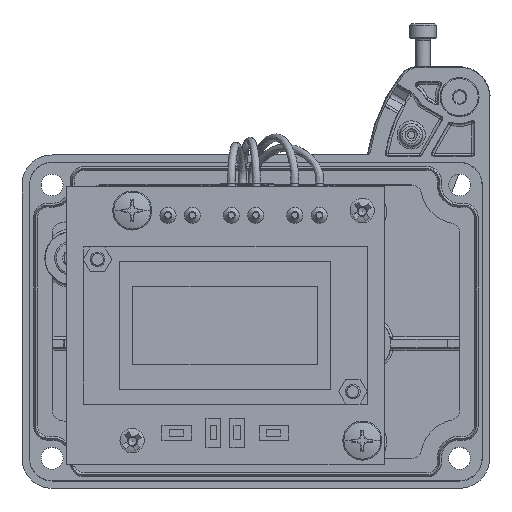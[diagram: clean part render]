
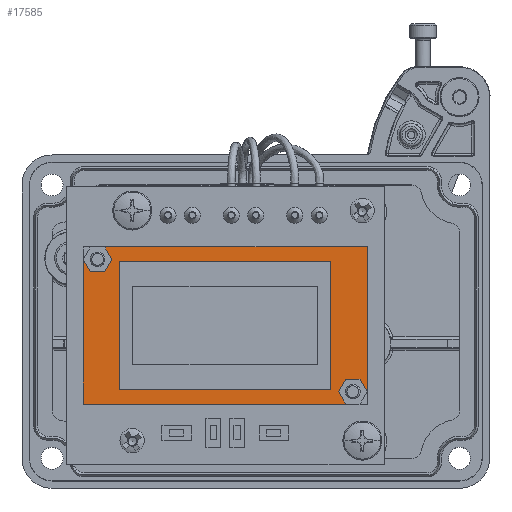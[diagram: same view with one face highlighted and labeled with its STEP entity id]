
A CAD part, top view. The second image highlights one B-rep face of the part: STEP entity #17585.
In plain terms, the highlighted planar face has unit normal (0, 0, 1).
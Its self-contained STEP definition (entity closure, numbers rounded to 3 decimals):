
#796 = VECTOR ( 'NONE', #1842, 1000. ) ;
#1074 = VERTEX_POINT ( 'NONE', #107857 ) ;
#1255 = CARTESIAN_POINT ( 'NONE',  ( 22.825, -14.53, 114.8 ) ) ;
#1842 = DIRECTION ( 'NONE',  ( -0.5, 0.866, 0. ) ) ;
#2137 = ORIENTED_EDGE ( 'NONE', *, *, #108421, .F. ) ;
#2296 = CARTESIAN_POINT ( 'NONE',  ( -27.925, -14.13, 114.8 ) ) ;
#2410 = EDGE_LOOP ( 'NONE', ( #5995, #38362, #9557, #72245, #109740, #63511, #24506, #75827, #6343, #63913, #69349, #85587 ) ) ;
#5009 = CARTESIAN_POINT ( 'NONE',  ( -35.375, 15.12, 114.8 ) ) ;
#5995 = ORIENTED_EDGE ( 'NONE', *, *, #88231, .T. ) ;
#6343 = ORIENTED_EDGE ( 'NONE', *, *, #63392, .T. ) ;
#9557 = ORIENTED_EDGE ( 'NONE', *, *, #101121, .F. ) ;
#9702 = FACE_OUTER_BOUND ( 'NONE', #2410, .T. ) ;
#12424 = VERTEX_POINT ( 'NONE', #104214 ) ;
#13086 = EDGE_CURVE ( 'NONE', #50009, #12424, #72279, .T. ) ;
#13888 = VECTOR ( 'NONE', #128413, 1000. ) ;
#14478 = LINE ( 'NONE', #39293, #66749 ) ;
#15255 = VECTOR ( 'NONE', #64267, 1000. ) ;
#17585 = ADVANCED_FACE ( 'NONE', ( #9702, #122089 ), #29906, .T. ) ;
#17595 = CARTESIAN_POINT ( 'NONE',  ( 18.408, -11.98, 114.8 ) ) ;
#17612 = VERTEX_POINT ( 'NONE', #72294 ) ;
#17683 = EDGE_CURVE ( 'NONE', #96565, #50009, #21115, .T. ) ;
#18193 = AXIS2_PLACEMENT_3D ( 'NONE', #101908, #126063, #63551 ) ;
#18337 = LINE ( 'NONE', #80977, #86106 ) ;
#18492 = CARTESIAN_POINT ( 'NONE',  ( -33.903, 10.02, 114.8 ) ) ;
#21115 = LINE ( 'NONE', #2296, #52633 ) ;
#21673 = LINE ( 'NONE', #72180, #59369 ) ;
#24378 = CARTESIAN_POINT ( 'NONE',  ( 22.825, 15.12, 114.8 ) ) ;
#24506 = ORIENTED_EDGE ( 'NONE', *, *, #80643, .T. ) ;
#26034 = DIRECTION ( 'NONE',  ( 0., -1., 0. ) ) ;
#27657 = CARTESIAN_POINT ( 'NONE',  ( -29.486, 12.57, 114.8 ) ) ;
#29376 = CARTESIAN_POINT ( 'NONE',  ( 5.266, 5.683, 114.8 ) ) ;
#29906 = PLANE ( 'NONE',  #18193 ) ;
#31183 = DIRECTION ( 'NONE',  ( -0.5, -0.866, 0. ) ) ;
#31555 = DIRECTION ( 'NONE',  ( -0.5, 0.866, 0. ) ) ;
#32111 = VERTEX_POINT ( 'NONE', #87711 ) ;
#32245 = VECTOR ( 'NONE', #26034, 1000. ) ;
#34488 = CARTESIAN_POINT ( 'NONE',  ( -27.925, 12.17, 114.8 ) ) ;
#34899 = VERTEX_POINT ( 'NONE', #92827 ) ;
#35812 = EDGE_CURVE ( 'NONE', #84447, #17612, #60836, .T. ) ;
#36636 = CARTESIAN_POINT ( 'NONE',  ( -30.958, 15.12, 114.8 ) ) ;
#38362 = ORIENTED_EDGE ( 'NONE', *, *, #97637, .T. ) ;
#38696 = CARTESIAN_POINT ( 'NONE',  ( -33.903, 10.02, 114.8 ) ) ;
#38884 = VECTOR ( 'NONE', #127303, 1000. ) ;
#39293 = CARTESIAN_POINT ( 'NONE',  ( -27.925, 12.17, 114.8 ) ) ;
#41074 = CARTESIAN_POINT ( 'NONE',  ( -6.275, -11.98, 114.8 ) ) ;
#45179 = CARTESIAN_POINT ( 'NONE',  ( -35.375, -17.08, 114.8 ) ) ;
#46385 = CARTESIAN_POINT ( 'NONE',  ( -29.486, 12.57, 114.8 ) ) ;
#47168 = CARTESIAN_POINT ( 'NONE',  ( -30.958, 10.02, 114.8 ) ) ;
#48196 = LINE ( 'NONE', #76546, #32245 ) ;
#48551 = CARTESIAN_POINT ( 'NONE',  ( -35.375, -17.08, 114.8 ) ) ;
#48750 = VECTOR ( 'NONE', #97073, 1000. ) ;
#50009 = VERTEX_POINT ( 'NONE', #90537 ) ;
#52633 = VECTOR ( 'NONE', #85062, 1000. ) ;
#54017 = LINE ( 'NONE', #24378, #48750 ) ;
#54270 = LINE ( 'NONE', #94018, #796 ) ;
#55775 = VERTEX_POINT ( 'NONE', #1255 ) ;
#56150 = LINE ( 'NONE', #5009, #15255 ) ;
#59308 = LINE ( 'NONE', #41074, #125747 ) ;
#59369 = VECTOR ( 'NONE', #81646, 1000. ) ;
#60836 = LINE ( 'NONE', #111963, #109209 ) ;
#62382 = EDGE_CURVE ( 'NONE', #83138, #68073, #18337, .T. ) ;
#63389 = VECTOR ( 'NONE', #31555, 1000. ) ;
#63392 = EDGE_CURVE ( 'NONE', #100603, #83138, #88261, .T. ) ;
#63511 = ORIENTED_EDGE ( 'NONE', *, *, #122329, .F. ) ;
#63551 = DIRECTION ( 'NONE',  ( 1., 0., 0. ) ) ;
#63896 = ORIENTED_EDGE ( 'NONE', *, *, #17683, .F. ) ;
#63913 = ORIENTED_EDGE ( 'NONE', *, *, #62382, .T. ) ;
#64183 = DIRECTION ( 'NONE',  ( 0., 1., 0. ) ) ;
#64267 = DIRECTION ( 'NONE',  ( -1., 0., 0. ) ) ;
#66633 = EDGE_CURVE ( 'NONE', #67815, #1074, #54270, .T. ) ;
#66749 = VECTOR ( 'NONE', #89810, 1000. ) ;
#67815 = VERTEX_POINT ( 'NONE', #38696 ) ;
#68073 = VERTEX_POINT ( 'NONE', #47168 ) ;
#68582 = EDGE_CURVE ( 'NONE', #34899, #100603, #56150, .T. ) ;
#69349 = ORIENTED_EDGE ( 'NONE', *, *, #75406, .T. ) ;
#71206 = ORIENTED_EDGE ( 'NONE', *, *, #13086, .F. ) ;
#72180 = CARTESIAN_POINT ( 'NONE',  ( -27.925, 12.17, 114.8 ) ) ;
#72245 = ORIENTED_EDGE ( 'NONE', *, *, #35812, .F. ) ;
#72279 = LINE ( 'NONE', #83050, #116328 ) ;
#72294 = CARTESIAN_POINT ( 'NONE',  ( 16.936, -14.53, 114.8 ) ) ;
#72637 = LINE ( 'NONE', #80761, #63389 ) ;
#75406 = EDGE_CURVE ( 'NONE', #68073, #67815, #110712, .T. ) ;
#75827 = ORIENTED_EDGE ( 'NONE', *, *, #68582, .T. ) ;
#76546 = CARTESIAN_POINT ( 'NONE',  ( -35.375, 15.12, 114.8 ) ) ;
#80643 = EDGE_CURVE ( 'NONE', #55775, #34899, #54017, .T. ) ;
#80761 = CARTESIAN_POINT ( 'NONE',  ( 9.683, 8.233, 114.8 ) ) ;
#80877 = LINE ( 'NONE', #48551, #83239 ) ;
#80977 = CARTESIAN_POINT ( 'NONE',  ( -30.958, 10.02, 114.8 ) ) ;
#81646 = DIRECTION ( 'NONE',  ( 0., -1., 0. ) ) ;
#82182 = DIRECTION ( 'NONE',  ( -1., 0., 0. ) ) ;
#83050 = CARTESIAN_POINT ( 'NONE',  ( 15.375, 12.17, 114.8 ) ) ;
#83138 = VERTEX_POINT ( 'NONE', #46385 ) ;
#83239 = VECTOR ( 'NONE', #99063, 1000. ) ;
#84447 = VERTEX_POINT ( 'NONE', #17595 ) ;
#85062 = DIRECTION ( 'NONE',  ( 1., 0., 0. ) ) ;
#85587 = ORIENTED_EDGE ( 'NONE', *, *, #66633, .T. ) ;
#86106 = VECTOR ( 'NONE', #131392, 1000. ) ;
#87711 = CARTESIAN_POINT ( 'NONE',  ( 21.353, -11.98, 114.8 ) ) ;
#88231 = EDGE_CURVE ( 'NONE', #1074, #127092, #48196, .T. ) ;
#88261 = LINE ( 'NONE', #27657, #38884 ) ;
#89810 = DIRECTION ( 'NONE',  ( -1., 0., 0. ) ) ;
#90537 = CARTESIAN_POINT ( 'NONE',  ( 15.375, -14.13, 114.8 ) ) ;
#91062 = VERTEX_POINT ( 'NONE', #118437 ) ;
#91655 = VECTOR ( 'NONE', #122899, 1000. ) ;
#92827 = CARTESIAN_POINT ( 'NONE',  ( 22.825, 15.12, 114.8 ) ) ;
#94018 = CARTESIAN_POINT ( 'NONE',  ( -35.375, 12.57, 114.8 ) ) ;
#95738 = CARTESIAN_POINT ( 'NONE',  ( -27.925, -14.13, 114.8 ) ) ;
#96565 = VERTEX_POINT ( 'NONE', #95738 ) ;
#97073 = DIRECTION ( 'NONE',  ( 0., 1., 0. ) ) ;
#97637 = EDGE_CURVE ( 'NONE', #127092, #91062, #80877, .T. ) ;
#99063 = DIRECTION ( 'NONE',  ( 1., 0., 0. ) ) ;
#100603 = VERTEX_POINT ( 'NONE', #36636 ) ;
#101121 = EDGE_CURVE ( 'NONE', #17612, #91062, #120903, .T. ) ;
#101397 = EDGE_CURVE ( 'NONE', #118307, #96565, #21673, .T. ) ;
#101908 = CARTESIAN_POINT ( 'NONE',  ( -6.275, -0.98, 114.8 ) ) ;
#104214 = CARTESIAN_POINT ( 'NONE',  ( 15.375, 12.17, 114.8 ) ) ;
#107857 = CARTESIAN_POINT ( 'NONE',  ( -35.375, 12.57, 114.8 ) ) ;
#108421 = EDGE_CURVE ( 'NONE', #12424, #118307, #14478, .T. ) ;
#109209 = VECTOR ( 'NONE', #31183, 1000. ) ;
#109558 = EDGE_LOOP ( 'NONE', ( #63896, #117647, #2137, #71206 ) ) ;
#109740 = ORIENTED_EDGE ( 'NONE', *, *, #128999, .F. ) ;
#110712 = LINE ( 'NONE', #18492, #13888 ) ;
#111963 = CARTESIAN_POINT ( 'NONE',  ( 17.001, -14.418, 114.8 ) ) ;
#116328 = VECTOR ( 'NONE', #64183, 1000. ) ;
#117647 = ORIENTED_EDGE ( 'NONE', *, *, #101397, .F. ) ;
#118307 = VERTEX_POINT ( 'NONE', #34488 ) ;
#118437 = CARTESIAN_POINT ( 'NONE',  ( 18.408, -17.08, 114.8 ) ) ;
#120903 = LINE ( 'NONE', #29376, #91655 ) ;
#122089 = FACE_BOUND ( 'NONE', #109558, .T. ) ;
#122329 = EDGE_CURVE ( 'NONE', #55775, #32111, #72637, .T. ) ;
#122899 = DIRECTION ( 'NONE',  ( 0.5, -0.866, 0. ) ) ;
#125747 = VECTOR ( 'NONE', #82182, 1000. ) ;
#126063 = DIRECTION ( 'NONE',  ( 0., 0., 1. ) ) ;
#127092 = VERTEX_POINT ( 'NONE', #45179 ) ;
#127303 = DIRECTION ( 'NONE',  ( 0.5, -0.866, 0. ) ) ;
#128413 = DIRECTION ( 'NONE',  ( -1., 0., 0. ) ) ;
#128999 = EDGE_CURVE ( 'NONE', #32111, #84447, #59308, .T. ) ;
#131392 = DIRECTION ( 'NONE',  ( -0.5, -0.866, 0. ) ) ;
